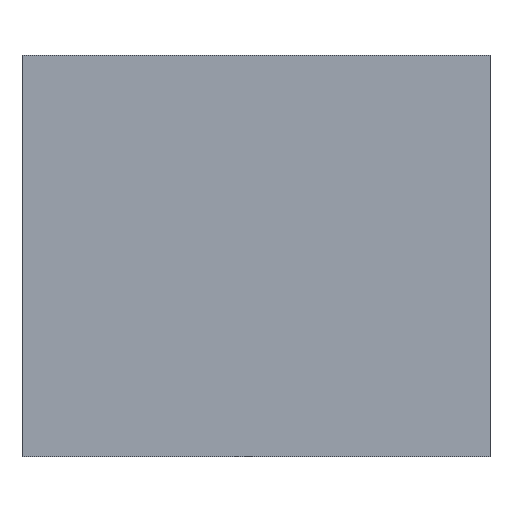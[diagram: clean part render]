
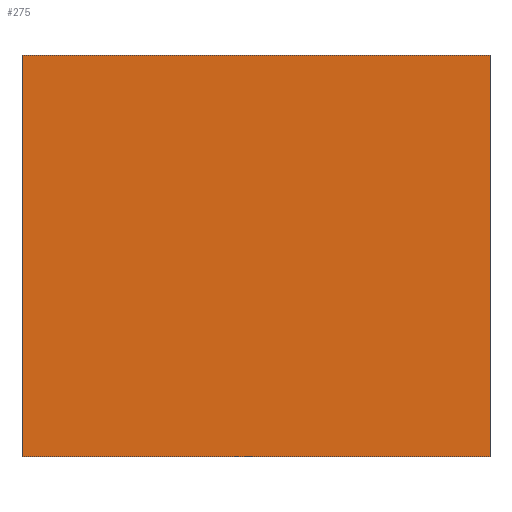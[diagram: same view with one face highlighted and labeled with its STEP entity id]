
A CAD part, front view. The second image highlights one B-rep face of the part: STEP entity #275.
In plain terms, the highlighted planar face has unit normal (0, -1, 0).
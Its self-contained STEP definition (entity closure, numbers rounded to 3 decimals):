
#59 = EDGE_CURVE('',#60,#62,#64,.T.);
#60 = VERTEX_POINT('',#61);
#61 = CARTESIAN_POINT('',(-35.,-24.,270.));
#62 = VERTEX_POINT('',#63);
#63 = CARTESIAN_POINT('',(-35.,-24.,330.));
#64 = SURFACE_CURVE('',#65,(#69,#81),.PCURVE_S1.);
#65 = LINE('',#66,#67);
#66 = CARTESIAN_POINT('',(-35.,-24.,270.));
#67 = VECTOR('',#68,1.);
#68 = DIRECTION('',(0.,0.,1.));
#69 = PCURVE('',#70,#75);
#70 = PLANE('',#71);
#71 = AXIS2_PLACEMENT_3D('',#72,#73,#74);
#72 = CARTESIAN_POINT('',(-35.,-24.,270.));
#73 = DIRECTION('',(1.,0.,0.));
#74 = DIRECTION('',(0.,0.,1.));
#75 = DEFINITIONAL_REPRESENTATION('',(#76),#80);
#76 = LINE('',#77,#78);
#77 = CARTESIAN_POINT('',(0.,0.));
#78 = VECTOR('',#79,1.);
#79 = DIRECTION('',(1.,0.));
#80 = ( GEOMETRIC_REPRESENTATION_CONTEXT(2) 
PARAMETRIC_REPRESENTATION_CONTEXT() REPRESENTATION_CONTEXT('2D SPACE',''
  ) );
#81 = PCURVE('',#82,#87);
#82 = PLANE('',#83);
#83 = AXIS2_PLACEMENT_3D('',#84,#85,#86);
#84 = CARTESIAN_POINT('',(-35.,-24.,270.));
#85 = DIRECTION('',(0.,1.,0.));
#86 = DIRECTION('',(0.,0.,1.));
#87 = DEFINITIONAL_REPRESENTATION('',(#88),#92);
#88 = LINE('',#89,#90);
#89 = CARTESIAN_POINT('',(0.,0.));
#90 = VECTOR('',#91,1.);
#91 = DIRECTION('',(1.,0.));
#92 = ( GEOMETRIC_REPRESENTATION_CONTEXT(2) 
PARAMETRIC_REPRESENTATION_CONTEXT() REPRESENTATION_CONTEXT('2D SPACE',''
  ) );
#110 = PLANE('',#111);
#111 = AXIS2_PLACEMENT_3D('',#112,#113,#114);
#112 = CARTESIAN_POINT('',(-35.,-24.,270.));
#113 = DIRECTION('',(0.,0.,1.));
#114 = DIRECTION('',(1.,0.,0.));
#164 = PLANE('',#165);
#165 = AXIS2_PLACEMENT_3D('',#166,#167,#168);
#166 = CARTESIAN_POINT('',(-35.,-24.,330.));
#167 = DIRECTION('',(0.,0.,1.));
#168 = DIRECTION('',(1.,0.,0.));
#179 = EDGE_CURVE('',#180,#182,#184,.T.);
#180 = VERTEX_POINT('',#181);
#181 = CARTESIAN_POINT('',(35.,-24.,270.));
#182 = VERTEX_POINT('',#183);
#183 = CARTESIAN_POINT('',(35.,-24.,330.));
#184 = SURFACE_CURVE('',#185,(#189,#201),.PCURVE_S1.);
#185 = LINE('',#186,#187);
#186 = CARTESIAN_POINT('',(35.,-24.,270.));
#187 = VECTOR('',#188,1.);
#188 = DIRECTION('',(0.,0.,1.));
#189 = PCURVE('',#190,#195);
#190 = PLANE('',#191);
#191 = AXIS2_PLACEMENT_3D('',#192,#193,#194);
#192 = CARTESIAN_POINT('',(35.,-24.,270.));
#193 = DIRECTION('',(1.,0.,0.));
#194 = DIRECTION('',(0.,0.,1.));
#195 = DEFINITIONAL_REPRESENTATION('',(#196),#200);
#196 = LINE('',#197,#198);
#197 = CARTESIAN_POINT('',(0.,0.));
#198 = VECTOR('',#199,1.);
#199 = DIRECTION('',(1.,0.));
#200 = ( GEOMETRIC_REPRESENTATION_CONTEXT(2) 
PARAMETRIC_REPRESENTATION_CONTEXT() REPRESENTATION_CONTEXT('2D SPACE',''
  ) );
#201 = PCURVE('',#82,#202);
#202 = DEFINITIONAL_REPRESENTATION('',(#203),#207);
#203 = LINE('',#204,#205);
#204 = CARTESIAN_POINT('',(0.,70.));
#205 = VECTOR('',#206,1.);
#206 = DIRECTION('',(1.,0.));
#207 = ( GEOMETRIC_REPRESENTATION_CONTEXT(2) 
PARAMETRIC_REPRESENTATION_CONTEXT() REPRESENTATION_CONTEXT('2D SPACE',''
  ) );
#275 = ADVANCED_FACE('',(#276),#82,.F.);
#276 = FACE_BOUND('',#277,.F.);
#277 = EDGE_LOOP('',(#278,#299,#300,#321));
#278 = ORIENTED_EDGE('',*,*,#279,.F.);
#279 = EDGE_CURVE('',#60,#180,#280,.T.);
#280 = SURFACE_CURVE('',#281,(#285,#292),.PCURVE_S1.);
#281 = LINE('',#282,#283);
#282 = CARTESIAN_POINT('',(-35.,-24.,270.));
#283 = VECTOR('',#284,1.);
#284 = DIRECTION('',(1.,0.,0.));
#285 = PCURVE('',#82,#286);
#286 = DEFINITIONAL_REPRESENTATION('',(#287),#291);
#287 = LINE('',#288,#289);
#288 = CARTESIAN_POINT('',(0.,0.));
#289 = VECTOR('',#290,1.);
#290 = DIRECTION('',(0.,1.));
#291 = ( GEOMETRIC_REPRESENTATION_CONTEXT(2) 
PARAMETRIC_REPRESENTATION_CONTEXT() REPRESENTATION_CONTEXT('2D SPACE',''
  ) );
#292 = PCURVE('',#110,#293);
#293 = DEFINITIONAL_REPRESENTATION('',(#294),#298);
#294 = LINE('',#295,#296);
#295 = CARTESIAN_POINT('',(0.,0.));
#296 = VECTOR('',#297,1.);
#297 = DIRECTION('',(1.,0.));
#298 = ( GEOMETRIC_REPRESENTATION_CONTEXT(2) 
PARAMETRIC_REPRESENTATION_CONTEXT() REPRESENTATION_CONTEXT('2D SPACE',''
  ) );
#299 = ORIENTED_EDGE('',*,*,#59,.T.);
#300 = ORIENTED_EDGE('',*,*,#301,.T.);
#301 = EDGE_CURVE('',#62,#182,#302,.T.);
#302 = SURFACE_CURVE('',#303,(#307,#314),.PCURVE_S1.);
#303 = LINE('',#304,#305);
#304 = CARTESIAN_POINT('',(-35.,-24.,330.));
#305 = VECTOR('',#306,1.);
#306 = DIRECTION('',(1.,0.,0.));
#307 = PCURVE('',#82,#308);
#308 = DEFINITIONAL_REPRESENTATION('',(#309),#313);
#309 = LINE('',#310,#311);
#310 = CARTESIAN_POINT('',(60.,0.));
#311 = VECTOR('',#312,1.);
#312 = DIRECTION('',(0.,1.));
#313 = ( GEOMETRIC_REPRESENTATION_CONTEXT(2) 
PARAMETRIC_REPRESENTATION_CONTEXT() REPRESENTATION_CONTEXT('2D SPACE',''
  ) );
#314 = PCURVE('',#164,#315);
#315 = DEFINITIONAL_REPRESENTATION('',(#316),#320);
#316 = LINE('',#317,#318);
#317 = CARTESIAN_POINT('',(0.,0.));
#318 = VECTOR('',#319,1.);
#319 = DIRECTION('',(1.,0.));
#320 = ( GEOMETRIC_REPRESENTATION_CONTEXT(2) 
PARAMETRIC_REPRESENTATION_CONTEXT() REPRESENTATION_CONTEXT('2D SPACE',''
  ) );
#321 = ORIENTED_EDGE('',*,*,#179,.F.);
